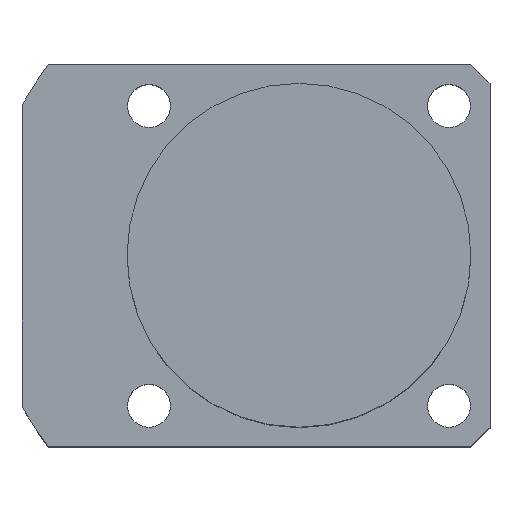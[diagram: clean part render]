
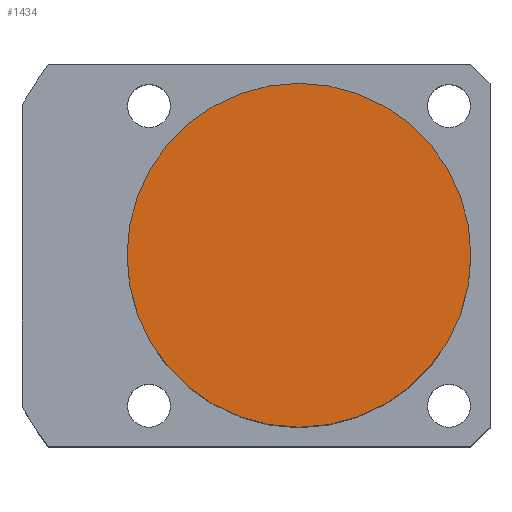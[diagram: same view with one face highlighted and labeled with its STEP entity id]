
A CAD part, top view. The second image highlights one B-rep face of the part: STEP entity #1434.
In plain terms, the highlighted planar face has unit normal (0, 0, 1).
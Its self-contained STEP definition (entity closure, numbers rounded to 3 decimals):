
#1378=CARTESIAN_POINT('',(0.0,-18.0,43.5));
#1379=VERTEX_POINT('',#1378);
#1386=CARTESIAN_POINT('',(-0.0,18.0,43.5));
#1387=VERTEX_POINT('',#1386);
#1388=CARTESIAN_POINT('',(0.0,0.0,43.5));
#1389=DIRECTION('',(0.0,0.0,1.0));
#1390=DIRECTION('',(1.0,0.0,0.0));
#1391=AXIS2_PLACEMENT_3D('',#1388,#1389,#1390);
#1392=CIRCLE('',#1391,18.0);
#1393=EDGE_CURVE('no 1785',#1387,#1379,#1392,.T.);
#1410=CARTESIAN_POINT('',(18.0,0.0,43.5));
#1411=VERTEX_POINT('',#1410);
#1412=CARTESIAN_POINT('',(0.0,0.0,43.5));
#1413=DIRECTION('',(0.0,0.0,1.0));
#1414=DIRECTION('',(1.0,0.0,0.0));
#1415=AXIS2_PLACEMENT_3D('',#1412,#1413,#1414);
#1416=CIRCLE('',#1415,18.0);
#1417=EDGE_CURVE('no 1800',#1411,#1387,#1416,.T.);
#1418=ORIENTED_EDGE('',*,*,#1417,.T.);
#1419=ORIENTED_EDGE('',*,*,#1393,.T.);
#1420=CARTESIAN_POINT('',(0.0,0.0,43.5));
#1421=DIRECTION('',(0.0,0.0,1.0));
#1422=DIRECTION('',(1.0,0.0,0.0));
#1423=AXIS2_PLACEMENT_3D('',#1420,#1421,#1422);
#1424=CIRCLE('',#1423,18.0);
#1425=EDGE_CURVE('no 1806',#1379,#1411,#1424,.T.);
#1426=ORIENTED_EDGE('',*,*,#1425,.T.);
#1427=EDGE_LOOP('',(#1418,#1419,#1426));
#1428=FACE_OUTER_BOUND('',#1427,.T.);
#1429=CARTESIAN_POINT('',(0.0,0.0,43.5));
#1430=DIRECTION('',(0.0,0.0,1.0));
#1431=DIRECTION('',(1.0,0.0,0.0));
#1432=AXIS2_PLACEMENT_3D('',#1429,#1430,#1431);
#1433=PLANE('',#1432);
#1434=ADVANCED_FACE('no 1793',(#1428),#1433,.T.);
